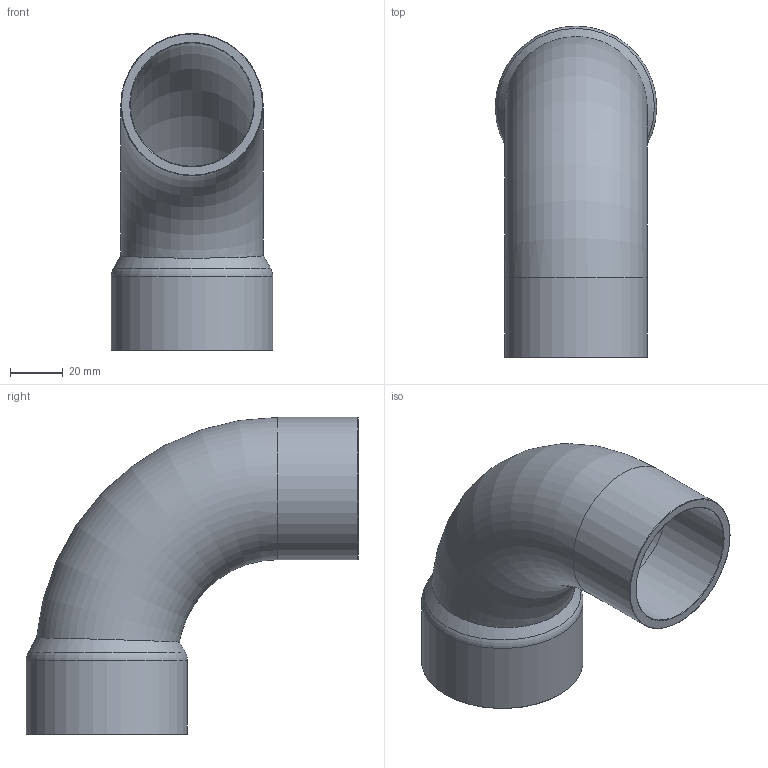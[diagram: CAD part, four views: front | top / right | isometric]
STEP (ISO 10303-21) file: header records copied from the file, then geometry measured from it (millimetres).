
FILE_DESCRIPTION((''),'2;1');
FILE_NAME('G:\SANHA-Ternat\Technik\Management\Bouwmaten + markeringen\z-maattekeningen 3D\29000s\29001A218_3d.stp','2017-07-26T10:24:05',('vdvijverd'),(''),'Autodesk Inventor 2009','Autodesk Inventor 2009','');
FILE_SCHEMA(('AUTOMOTIVE_DESIGN { 1 0 10303 214 1 1 1 1 }'));
Length unit declared in the file: millimetre
Products named in the file (1): 29001A218_3d
Bounding box: 61.26 x 125.93 x 120.28 mm (x, y, z)
Volume: 93568.7 mm3; surface area: 53848 mm2
Topology: 1 solids, 1 shells, 16 faces, 33 edges, 19 vertices
Faces by surface type: cone 6, cylinder 4, torus 3, plane 2, bspline 1
Full cylindrical faces by diameter (mm): 46.87 x1, 53.97 x1, 54.155 x1, 61.255 x1
Entity records: 460 total; most frequent: CARTESIAN_POINT 165, DIRECTION 60, ORIENTED_EDGE 32, EDGE_LOOP 32, AXIS2_PLACEMENT_3D 30, VERTEX_POINT 16, EDGE_CURVE 16, FACE_OUTER_BOUND 16
